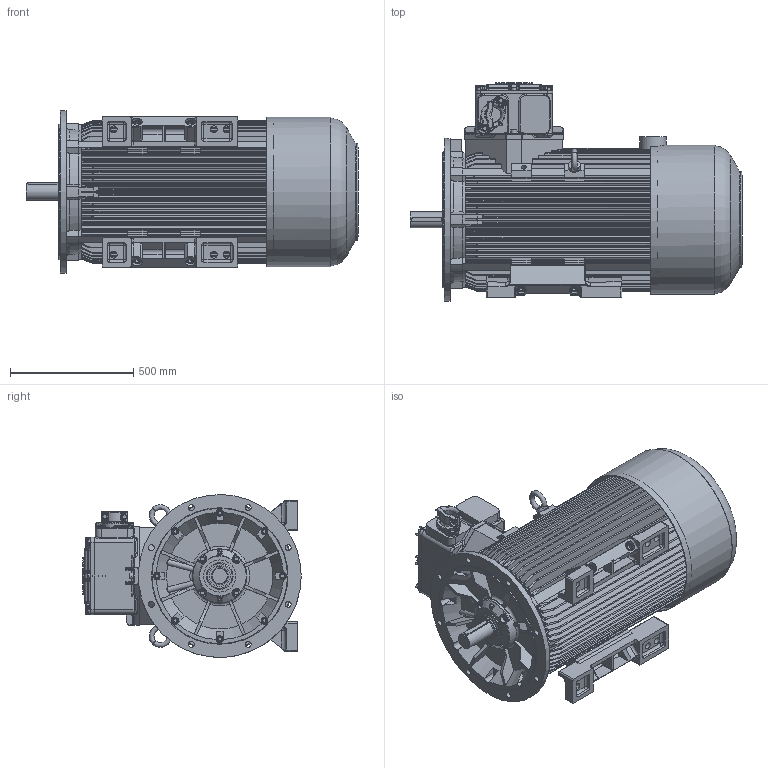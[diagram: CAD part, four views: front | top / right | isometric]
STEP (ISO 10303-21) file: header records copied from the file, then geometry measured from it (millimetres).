
FILE_DESCRIPTION(/* description */ ('Unknown'),/* implementation_level */ '2;1');
FILE_NAME(/* name */ 'EcSTLe(b)315M2(B,C)-N-IE(2,3)',/* time_stamp */ '2022-04-19T14:27:09+02:00',/* author */ ('Unknown'),/* organization */ ('Unknown'),/* preprocessor_version */ 'ST-DEVELOPER v16.7',/* originating_system */ 'DEX',/* authorisation */ $);
FILE_SCHEMA (('AUTOMOTIVE_DESIGN {1 0 10303 214 3 1 1}'));
Products named in the file (1): EcSTLe(b)315M2(B,C)-N-IE(2,3)
Bounding box: 1345.49 x 885 x 659.67 mm (x, y, z)
Volume: 306710567.6 mm3; surface area: 8138908.6 mm2
Topology: 1 solids, 73 shells, 3589 faces, 9078 edges, 5620 vertices
Faces by surface type: plane 1357, cylinder 1157, torus 363, cone 344, bspline 259, sphere 109
Full cylindrical faces by diameter (mm): 3 x4, 3.2 x2, 8.16 x4, 8.376 x8, 10 x10, 11 x6, 12 x2, 13.546 x12, 13.835 x12, 14.63 x8, 16 x24, 17.5 x12, 18 x8, 20.319 x4, 20.752 x8, 24 x20, 26 x16, 28 x6, 40 x4, 62 x1, 65 x1, 67 x1, 81.5 x1, 82 x1, 85 x1, 87 x1, 106 x1, 129.8 x1, 150 x1, 220 x2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
Entity records: 140043 total; most frequent: CARTESIAN_POINT 32384, DIRECTION 17368, ORIENTED_EDGE 16890, EDGE_CURVE 8445, AXIS2_PLACEMENT_3D 6749, VERTEX_POINT 5434, FACE_BOUND 4127, EDGE_LOOP 4108
